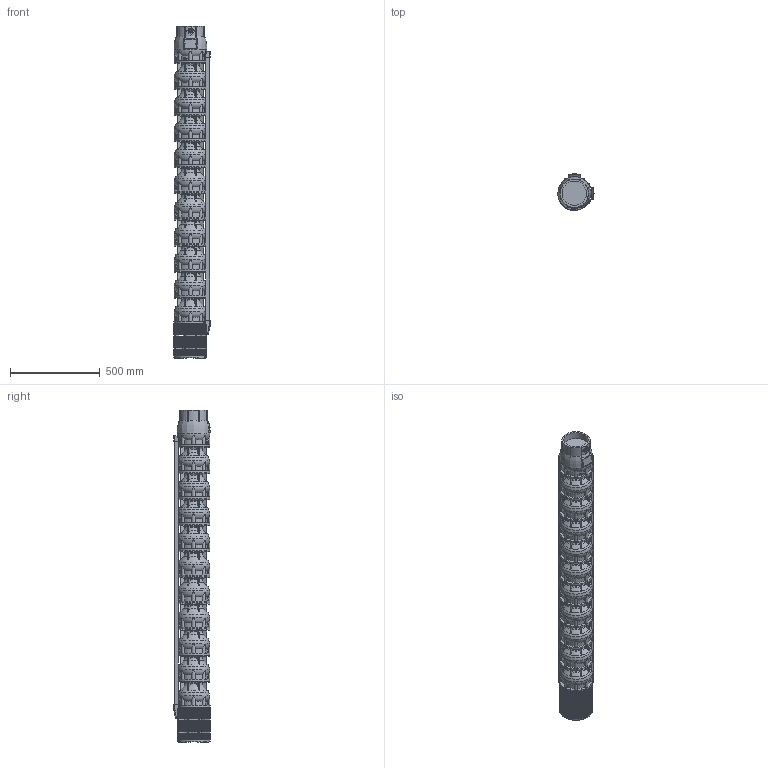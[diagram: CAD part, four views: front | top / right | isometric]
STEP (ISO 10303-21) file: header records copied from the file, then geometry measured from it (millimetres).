
FILE_DESCRIPTION(/* description */ ('Unknown'),/* implementation_level */ '2;1');
FILE_NAME(/* name */ 'VSI134-10_WR_M8-50_SLE',/* time_stamp */ '2023-09-14T15:01:35+02:00',/* author */ ('Unknown'),/* organization */ ('Unknown'),/* preprocessor_version */ 'ST-DEVELOPER v18.102',/* originating_system */ 'Solid Edge',/* authorisation */ 'Unknown');
FILE_SCHEMA (('CONFIG_CONTROL_DESIGN','AUTOMOTIVE_DESIGN {1 0 10303 214 3 1 1}'));
Products named in the file (11): VSI134-10_WR_M8-50_SLE; VSI134_testata; VSI134_diffusore; VSI134_supporto_8×8; M5X8_UNI7687; LOW 134-10; VSI134_terminale_bottom_copricavo_basso; VSI134_terminale_top_copricavo_basso; VSI134_filtro_A; VSI134_filtro_B; VSI134_giunto_8×8
Assembly tree (33 placements, depth 2):
  VSI134-10_WR_M8-50_SLE
    VSI134_testata
    VSI134_diffusore  x10
    VSI134_supporto_8×8
    M5X8_UNI7687  x12
    LOW 134-10  x2
    VSI134_terminale_bottom_copricavo_basso  x2
    VSI134_terminale_top_copricavo_basso  x2
    VSI134_filtro_A
    VSI134_filtro_B
    VSI134_giunto_8×8
Bounding box: 201.57 x 202.09 x 1847 mm (x, y, z)
Volume: 33427541.3 mm3; surface area: 2833737.9 mm2
Topology: 72 solids, 74 shells, 4297 faces, 12121 edges, 8086 vertices
Faces by surface type: plane 3120, cylinder 581, torus 486, cone 65, bspline 31, sphere 14
Full cylindrical faces by diameter (mm): 2.4 x2, 3 x2, 4.2 x16, 5 x12, 5.5 x8, 26 x1, 44 x1, 69 x1, 74 x1, 98 x1, 135.472 x1, 157 x1, 182 x11
Entity records: 85577 total; most frequent: CARTESIAN_POINT 18366, ORIENTED_EDGE 14056, DIRECTION 13496, EDGE_CURVE 7028, VERTEX_POINT 4730, AXIS2_PLACEMENT_3D 4599, LINE 4298, VECTOR 4298
